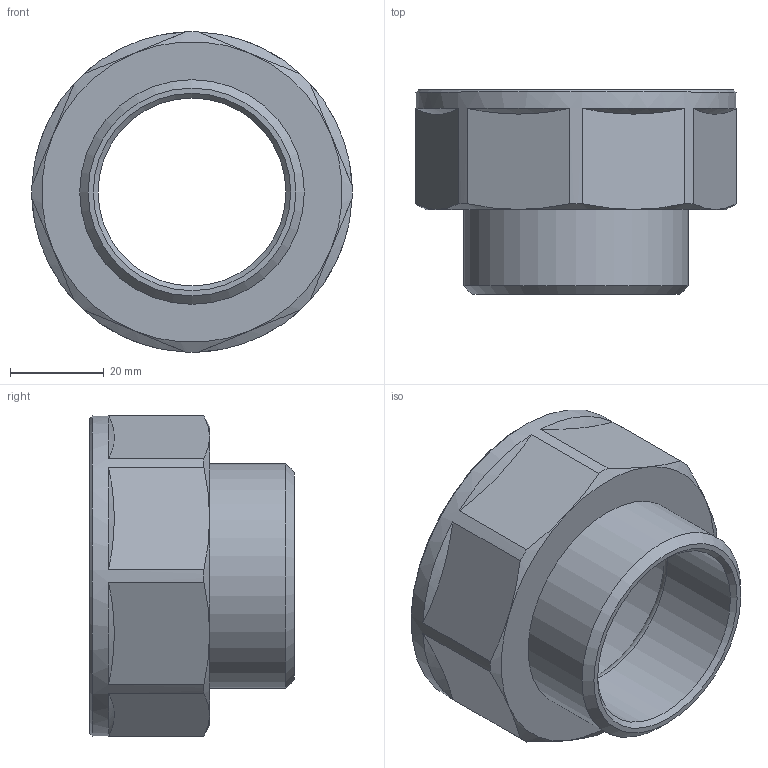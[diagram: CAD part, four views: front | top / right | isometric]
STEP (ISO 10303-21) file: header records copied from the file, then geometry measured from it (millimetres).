
FILE_DESCRIPTION(('STEP AP203'), '1');
FILE_NAME('ﾂﾐ.753158.010 - VTr.592.N.0908 ﾏ褞襄. G2xG1 1-2', '2024-07-08T09:41:10', ('Boss'), (''), 'C3D Converter', 'C3D Toolkit', '');
FILE_SCHEMA(('CONFIG_CONTROL_DESIGN'));
Length unit declared in the file: millimetre
Products named in the file (1): ВР.753158.010
Bounding box: 68.19 x 43.5 x 68.19 mm (x, y, z)
Volume: 37220.6 mm3; surface area: 18690.8 mm2
Topology: 1 solids, 1 shells, 37 faces, 85 edges, 52 vertices
Faces by surface type: cone 20, plane 12, cylinder 4, torus 1
Full cylindrical faces by diameter (mm): 40 x1, 47.803 x1, 56.657 x1, 68.2 x1
Entity records: 1515 total; most frequent: CARTESIAN_POINT 753, DIRECTION 152, ORIENTED_EDGE 140, EDGE_CURVE 70, AXIS2_PLACEMENT_3D 68, VERTEX_POINT 49, EDGE_LOOP 47, ADVANCED_FACE 34
